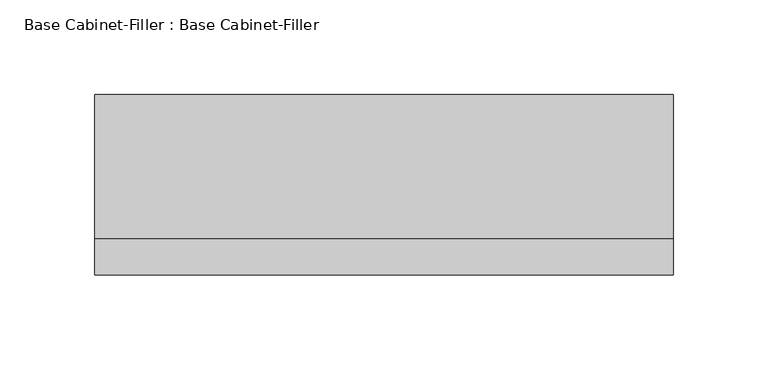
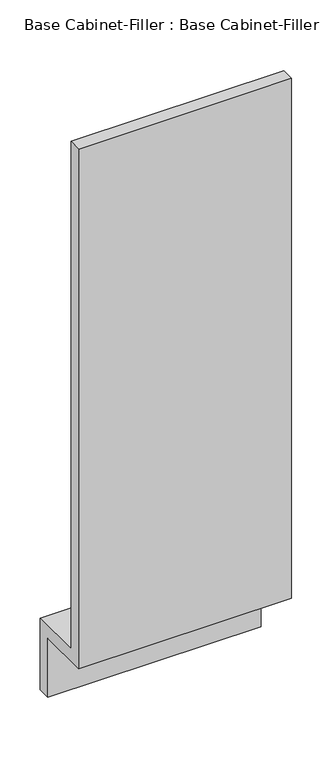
"""IFC4 building model written with IfcOpenShell, lengths in millimetres: furniture geometry, Base Cabinet-Filler : Base Cabinet-Filler."""

from ifc_helpers import new_model, si_unit, frame, origin, place, context, project, spatial, polyline, outline, extrude, source, transform, mapped, element, save


def base_cabinet_filler_base_cabinet_filler_783ad0b1(model_context):
    return source(origin(), model_context, "Body", "SweptSolid", [
        extrude(outline(polyline([(-609.6, 88.9), (-609.6, 876.3), (-590.55, 876.3), (-590.55, 107.95), (-514.35, 107.95), (-514.35, 0.0), (-533.4, 0.0), (-533.4, 88.9), (-609.6, 88.9)])), frame((-133.9308541, 0.0, 0.0), z_axis=(1.0, 0.0, 0.0), x_axis=(0.0, 1.0, 0.0)), (0.0, 0.0, 1.0), 305.3371181),
    ])


if __name__ == "__main__":
    model = new_model("IFC4")
    model_context = context("Model", 3, world=origin())
    ifc_project = project(units=[si_unit("LENGTHUNIT", "METRE", prefix="MILLI")], contexts=[model_context])
    site = spatial("IfcSite", under=ifc_project)
    building = spatial("IfcBuilding", under=site)
    placement = place(None, origin())
    base_cabinet_filler_base_cabinet_filler_shape = base_cabinet_filler_base_cabinet_filler_783ad0b1(model_context)
    element("IfcFurniture", 1, ObjectType="Base Cabinet-Filler : Base Cabinet-Filler", at=placement, inside=building, context=model_context, shape_type="MappedRepresentation", body=[
        mapped(base_cabinet_filler_base_cabinet_filler_shape, transform((0.0, 0.0, 0.0), x_axis=(1.0, 0.0, 0.0), y_axis=(0.0, 1.0, 0.0), z_axis=(0.0, 0.0, 1.0))),
    ])
    save(model, "model.ifc")
